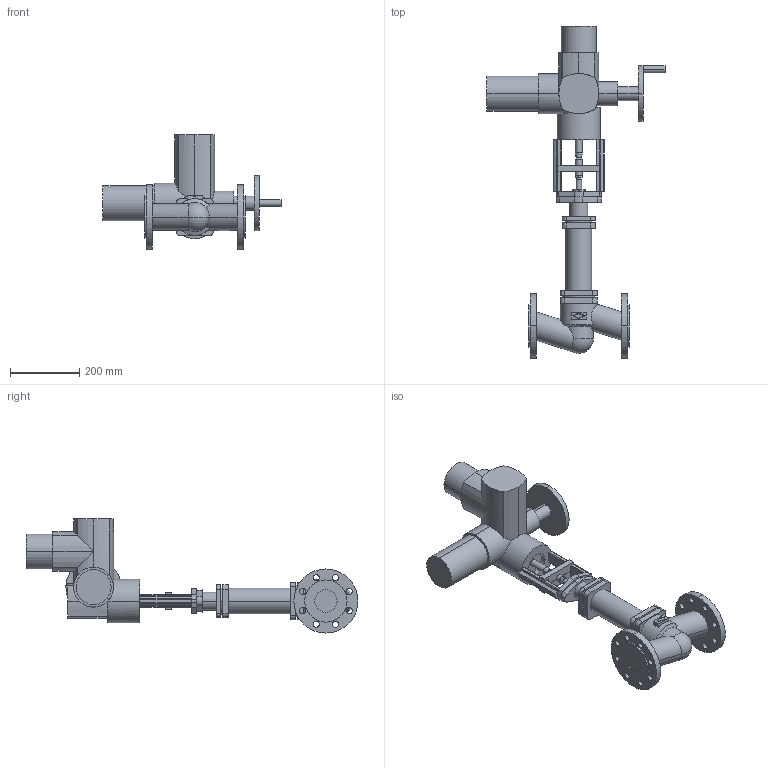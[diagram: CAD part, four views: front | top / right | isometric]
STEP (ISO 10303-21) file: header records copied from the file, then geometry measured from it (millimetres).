
FILE_DESCRIPTION(('OneSpaceDesigner STEP Export'),'2;1');
FILE_NAME('c000003138.stp','2007-01-19T11:29:42',(''),(''),'OneSpace Designer STEP processor for AP214 (Solid Model)','OneSpace Designer 14.00B 27-May-2006 (C) CoCreate Software GmbH','');
FILE_SCHEMA(('AUTOMOTIVE_DESIGN { 1 0 10303 214 1 1 1 1 }'));
Length unit declared in the file: millimetre
Products named in the file (2): 1; 2
Bounding box: 514 x 958 x 329.5 mm (x, y, z)
Volume: 12903879.3 mm3; surface area: 783130.4 mm2
Topology: 2 solids, 2 shells, 328 faces, 844 edges, 539 vertices
Faces by surface type: cylinder 166, plane 154, cone 6, sphere 2
Entity records: 10622 total; most frequent: CARTESIAN_POINT 2167, ORIENTED_EDGE 1684, DIRECTION 1449, SURFACE_CURVE 842, EDGE_CURVE 842, VERTEX_POINT 539, AXIS2_PLACEMENT_3D 494, VECTOR 461
